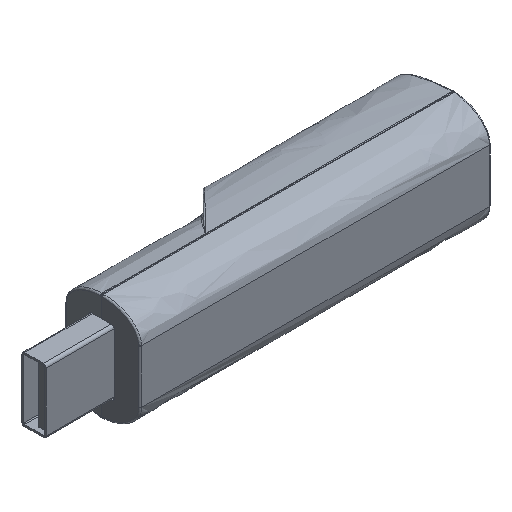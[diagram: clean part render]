
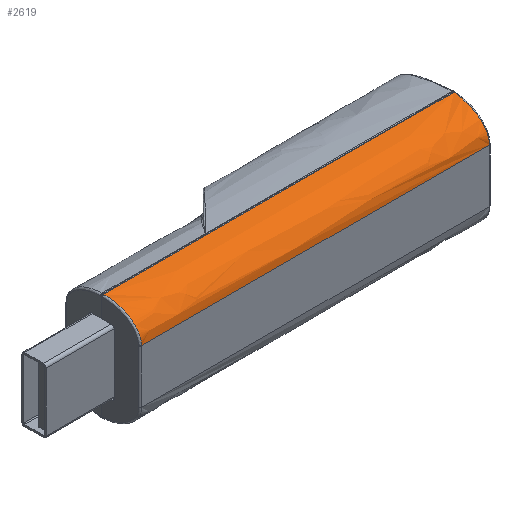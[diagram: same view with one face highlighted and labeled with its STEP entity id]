
A CAD part, isometric view. The second image highlights one B-rep face of the part: STEP entity #2619.
In plain terms, the highlighted free-form (B-spline) face has degree [2, 3] with [3, 4] control points.
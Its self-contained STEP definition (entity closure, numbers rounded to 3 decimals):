
#19 = ORIENTED_EDGE ( 'NONE', *, *, #5933, .F. ) ;
#232 = CARTESIAN_POINT ( 'NONE',  ( 12.098, -4.4, 4.997 ) ) ;
#254 = CARTESIAN_POINT ( 'NONE',  ( 36.293, 2.426, 9.994 ) ) ;
#257 = CARTESIAN_POINT ( 'NONE',  ( 32.668, 1.665, 9.967 ) ) ;
#369 = CARTESIAN_POINT ( 'NONE',  ( 32.487, -3.748, 7.078 ) ) ;
#373 = CARTESIAN_POINT ( 'NONE',  ( -32.559, -1.584, 8.973 ) ) ;
#779 = CARTESIAN_POINT ( 'NONE',  ( -12.098, 2.426, 9.994 ) ) ;
#785 = CARTESIAN_POINT ( 'NONE',  ( 32.643, 0.921, 9.858 ) ) ;
#813 = ORIENTED_EDGE ( 'NONE', *, *, #4586, .F. ) ;
#893 = VERTEX_POINT ( 'NONE', #5106 ) ;
#895 = CARTESIAN_POINT ( 'NONE',  ( 32.477, -4.043, 6.558 ) ) ;
#900 = CARTESIAN_POINT ( 'NONE',  ( -32.594, -0.545, 9.435 ) ) ;
#1217 = LINE ( 'NONE', #4596, #5452 ) ;
#1247 = VERTEX_POINT ( 'NONE', #6826 ) ;
#1323 = CARTESIAN_POINT ( 'NONE',  ( 32.594, -0.531, 9.44 ) ) ;
#1417 = EDGE_CURVE ( 'NONE', #1755, #893, #1887, .T. ) ;
#1447 = CARTESIAN_POINT ( 'NONE',  ( 32.468, -4.325, 5.811 ) ) ;
#1452 = CARTESIAN_POINT ( 'NONE',  ( -32.643, 0.918, 9.858 ) ) ;
#1755 = VERTEX_POINT ( 'NONE', #2143 ) ;
#1850 = DIRECTION ( 'NONE',  ( 1., 0., 0. ) ) ;
#1879 = CARTESIAN_POINT ( 'NONE',  ( 32.559, -1.58, 8.976 ) ) ;
#1887 = B_SPLINE_CURVE_WITH_KNOTS ( 'NONE', 3,
 ( #4166, #2493, #1972, #5831, #2517, #6382, #3074, #6946, #3641, #373, #4192, #900, #4753, #1452, #5316, #2003 ),
 .UNSPECIFIED., .F., .F.,
 ( 4, 2, 2, 2, 2, 2, 2, 4 ),
 ( 0., 0.125, 0.25, 0.375, 0.5, 0.625, 0.75, 1. ),
 .UNSPECIFIED. ) ;
#1972 = CARTESIAN_POINT ( 'NONE',  ( -32.468, -4.328, 5.801 ) ) ;
#1997 = CARTESIAN_POINT ( 'NONE',  ( 32.466, -4.4, 4.997 ) ) ;
#2003 = CARTESIAN_POINT ( 'NONE',  ( -32.694, 2.426, 9.994 ) ) ;
#2143 = CARTESIAN_POINT ( 'NONE',  ( -32.466, -4.4, 4.997 ) ) ;
#2294 =( BOUNDED_SURFACE ( )  B_SPLINE_SURFACE ( 2, 3, ( 
 ( #2859, #232, #5720, #2400 ),
 ( #6253, #2946, #6815, #3512 ),
 ( #254, #4070, #779, #4618 ) ),
 .UNSPECIFIED., .F., .F., .T. ) 
 B_SPLINE_SURFACE_WITH_KNOTS ( ( 3, 3 ),
 ( 4, 4 ),
 ( 0., 1. ),
 ( -0.003, 0.069 ),
 .UNSPECIFIED. ) 
 GEOMETRIC_REPRESENTATION_ITEM ( )  RATIONAL_B_SPLINE_SURFACE ( (
 ( 1., 1., 1., 1.),
 ( 0.719, 0.719, 0.719, 0.719),
 ( 1., 1., 1., 1.) ) ) 
 REPRESENTATION_ITEM ( '' )  SURFACE ( )  );
#2400 = CARTESIAN_POINT ( 'NONE',  ( -36.293, -4.4, 4.997 ) ) ;
#2423 = CARTESIAN_POINT ( 'NONE',  ( 32.537, -2.231, 8.574 ) ) ;
#2493 = CARTESIAN_POINT ( 'NONE',  ( -32.466, -4.4, 5.405 ) ) ;
#2517 = CARTESIAN_POINT ( 'NONE',  ( -32.483, -3.868, 6.911 ) ) ;
#2619 = ADVANCED_FACE ( 'NONE', ( #4152 ), #2294, .T. ) ;
#2859 = CARTESIAN_POINT ( 'NONE',  ( 36.293, -4.4, 4.997 ) ) ;
#2946 = CARTESIAN_POINT ( 'NONE',  ( 12.098, -4.4, 9.756 ) ) ;
#3069 = CARTESIAN_POINT ( 'NONE',  ( 32.521, -2.697, 8.226 ) ) ;
#3074 = CARTESIAN_POINT ( 'NONE',  ( -32.507, -3.137, 7.839 ) ) ;
#3512 = CARTESIAN_POINT ( 'NONE',  ( -36.293, -4.4, 9.756 ) ) ;
#3634 = CARTESIAN_POINT ( 'NONE',  ( 32.498, -3.401, 7.557 ) ) ;
#3641 = CARTESIAN_POINT ( 'NONE',  ( -32.537, -2.24, 8.577 ) ) ;
#3930 = DIRECTION ( 'NONE',  ( 1., 0., 0. ) ) ;
#4070 = CARTESIAN_POINT ( 'NONE',  ( 12.098, 2.426, 9.994 ) ) ;
#4073 = CARTESIAN_POINT ( 'NONE',  ( 32.694, 2.426, 9.994 ) ) ;
#4079 = ORIENTED_EDGE ( 'NONE', *, *, #1417, .F. ) ;
#4152 = FACE_OUTER_BOUND ( 'NONE', #5042, .T. ) ;
#4166 = CARTESIAN_POINT ( 'NONE',  ( -32.466, -4.4, 4.997 ) ) ;
#4185 = CARTESIAN_POINT ( 'NONE',  ( 32.483, -3.855, 6.908 ) ) ;
#4192 = CARTESIAN_POINT ( 'NONE',  ( -32.57, -1.245, 9.143 ) ) ;
#4269 = VERTEX_POINT ( 'NONE', #4551 ) ;
#4362 = EDGE_CURVE ( 'NONE', #1755, #4269, #1217, .T. ) ;
#4448 = ORIENTED_EDGE ( 'NONE', *, *, #4362, .T. ) ;
#4551 = CARTESIAN_POINT ( 'NONE',  ( 32.466, -4.4, 4.997 ) ) ;
#4586 = EDGE_CURVE ( 'NONE', #1247, #4269, #6610, .T. ) ;
#4596 = CARTESIAN_POINT ( 'NONE',  ( 0., -4.4, 4.997 ) ) ;
#4618 = CARTESIAN_POINT ( 'NONE',  ( -36.293, 2.426, 9.994 ) ) ;
#4624 = CARTESIAN_POINT ( 'NONE',  ( 32.606, -0.17, 9.562 ) ) ;
#4746 = CARTESIAN_POINT ( 'NONE',  ( 32.475, -4.124, 6.377 ) ) ;
#4753 = CARTESIAN_POINT ( 'NONE',  ( -32.606, -0.184, 9.558 ) ) ;
#5042 = EDGE_LOOP ( 'NONE', ( #813, #19, #4079, #4448 ) ) ;
#5106 = CARTESIAN_POINT ( 'NONE',  ( -32.694, 2.426, 9.994 ) ) ;
#5186 = CARTESIAN_POINT ( 'NONE',  ( 32.57, -1.238, 9.146 ) ) ;
#5312 = CARTESIAN_POINT ( 'NONE',  ( 32.466, -4.4, 5.403 ) ) ;
#5316 = CARTESIAN_POINT ( 'NONE',  ( -32.668, 1.665, 9.967 ) ) ;
#5452 = VECTOR ( 'NONE', #1850, 1000. ) ;
#5720 = CARTESIAN_POINT ( 'NONE',  ( -12.098, -4.4, 4.997 ) ) ;
#5743 = CARTESIAN_POINT ( 'NONE',  ( 32.542, -2.071, 8.68 ) ) ;
#5831 = CARTESIAN_POINT ( 'NONE',  ( -32.477, -4.059, 6.562 ) ) ;
#5933 = EDGE_CURVE ( 'NONE', #893, #1247, #6808, .T. ) ;
#6253 = CARTESIAN_POINT ( 'NONE',  ( 36.293, -4.4, 9.756 ) ) ;
#6279 = CARTESIAN_POINT ( 'NONE',  ( 32.527, -2.544, 8.348 ) ) ;
#6382 = CARTESIAN_POINT ( 'NONE',  ( -32.498, -3.404, 7.554 ) ) ;
#6455 = VECTOR ( 'NONE', #3930, 1000. ) ;
#6610 = B_SPLINE_CURVE_WITH_KNOTS ( 'NONE', 3,
 ( #4073, #257, #785, #4624, #1323, #5186, #1879, #5743, #2423, #6279, #3069, #6942, #3634, #369, #4185, #895, #4746, #1447, #5312, #1997 ),
 .UNSPECIFIED., .F., .F.,
 ( 4, 2, 2, 2, 2, 2, 2, 2, 2, 4 ),
 ( 0., 0.25, 0.375, 0.5, 0.563, 0.625, 0.75, 0.813, 0.875, 1. ),
 .UNSPECIFIED. ) ;
#6667 = CARTESIAN_POINT ( 'NONE',  ( 33., 2.426, 9.994 ) ) ;
#6808 = LINE ( 'NONE', #6667, #6455 ) ;
#6815 = CARTESIAN_POINT ( 'NONE',  ( -12.098, -4.4, 9.756 ) ) ;
#6826 = CARTESIAN_POINT ( 'NONE',  ( 32.694, 2.426, 9.994 ) ) ;
#6942 = CARTESIAN_POINT ( 'NONE',  ( 32.507, -3.135, 7.841 ) ) ;
#6946 = CARTESIAN_POINT ( 'NONE',  ( -32.526, -2.558, 8.349 ) ) ;
